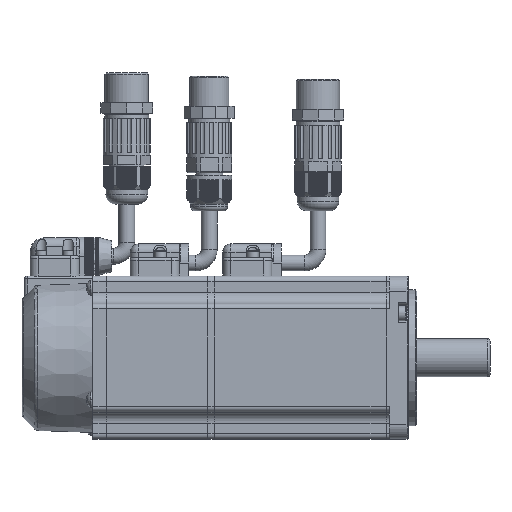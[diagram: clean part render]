
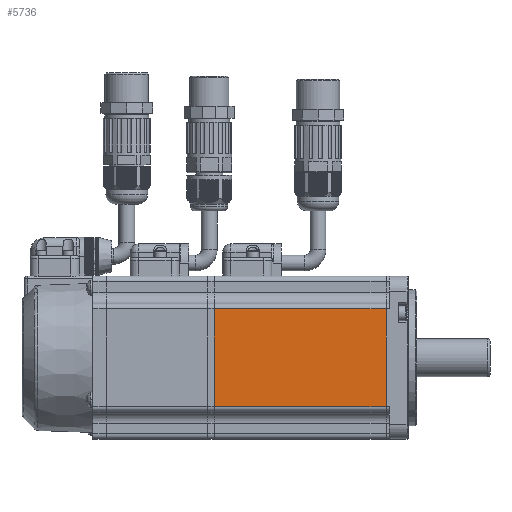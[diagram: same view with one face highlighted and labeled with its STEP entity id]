
A CAD part, left-side view. The second image highlights one B-rep face of the part: STEP entity #5736.
In plain terms, the highlighted planar face has unit normal (-1, 0, 0).
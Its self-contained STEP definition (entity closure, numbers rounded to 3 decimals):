
#5736=ADVANCED_FACE('',(#11209),#8997,.F.);
#8997=PLANE('',#58264);
#11209=FACE_OUTER_BOUND('',#14169,.T.);
#14169=EDGE_LOOP('',(#17822,#17823,#17824,#17825));
#17822=ORIENTED_EDGE('',*,*,#40222,.T.);
#17823=ORIENTED_EDGE('',*,*,#40223,.F.);
#17824=ORIENTED_EDGE('',*,*,#40224,.T.);
#17825=ORIENTED_EDGE('',*,*,#40207,.F.);
#34670=VERTEX_POINT('',#78174);
#34671=VERTEX_POINT('',#78176);
#34684=VERTEX_POINT('',#78205);
#34685=VERTEX_POINT('',#78207);
#40207=EDGE_CURVE('',#34670,#34671,#48631,.T.);
#40222=EDGE_CURVE('',#34670,#34684,#48638,.T.);
#40223=EDGE_CURVE('',#34685,#34684,#48639,.T.);
#40224=EDGE_CURVE('',#34685,#34671,#48640,.T.);
#48631=LINE('',#78175,#53442);
#48638=LINE('',#78204,#53449);
#48639=LINE('',#78206,#53450);
#48640=LINE('',#78208,#53451);
#53442=VECTOR('',#63301,1.);
#53449=VECTOR('',#63326,1.);
#53450=VECTOR('',#63327,1.);
#53451=VECTOR('',#63328,1.);
#58264=AXIS2_PLACEMENT_3D('',#78209,#63329,#63330);
#63301=DIRECTION('',(0.,0.,1.));
#63326=DIRECTION('',(0.,-1.,0.));
#63327=DIRECTION('',(0.,0.,-1.));
#63328=DIRECTION('',(0.,1.,0.));
#63329=DIRECTION('',(1.,0.,0.));
#63330=DIRECTION('',(0.,-1.,0.));
#78174=CARTESIAN_POINT('',(-115.303,158.291,-3.479));
#78175=CARTESIAN_POINT('',(-115.303,158.291,14.521));
#78176=CARTESIAN_POINT('',(-115.303,158.291,32.521));
#78204=CARTESIAN_POINT('',(-115.303,144.19,-3.479));
#78205=CARTESIAN_POINT('',(-115.303,95.19,-3.479));
#78206=CARTESIAN_POINT('',(-115.303,95.19,14.521));
#78207=CARTESIAN_POINT('',(-115.303,95.19,32.521));
#78208=CARTESIAN_POINT('',(-115.303,144.19,32.521));
#78209=CARTESIAN_POINT('',(-115.303,144.19,-15.479));
